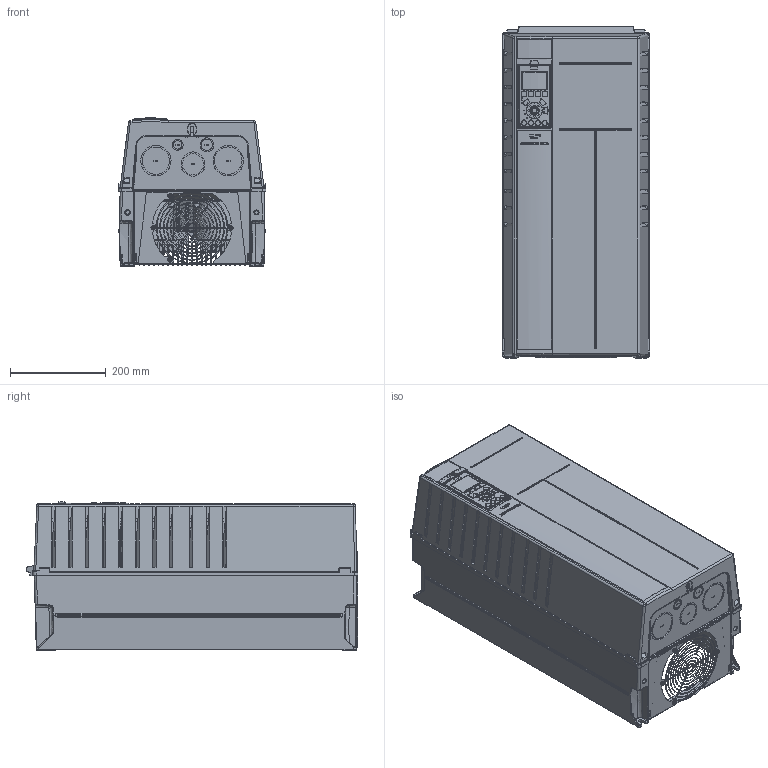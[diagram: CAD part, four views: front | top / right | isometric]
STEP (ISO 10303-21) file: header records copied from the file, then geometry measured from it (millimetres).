
FILE_DESCRIPTION((''),'2;1');
FILE_NAME('DANFOSS-FC300-C1-IP21','2011-10-13T',('cstephenkumar'),('Be-Atch INC. 1993'),'PRO/ENGINEER BY PARAMETRIC TECHNOLOGY CORPORATION, 2009360','PRO/ENGINEER BY PARAMETRIC TECHNOLOGY CORPORATION, 2009360','');
FILE_SCHEMA(('AUTOMOTIVE_DESIGN { 1 0 10303 214 1 1 1 1 }'));
Length unit declared in the file: millimetre
Products named in the file (1): DANFOSS-FC300-C1-IP21
Bounding box: 308.54 x 692.9 x 309.3 mm (x, y, z)
Volume: 42128668.2 mm3; surface area: 3357397.7 mm2
Topology: 1 solids, 22 shells, 5199 faces, 13589 edges, 8390 vertices
Faces by surface type: plane 1842, cylinder 1524, bspline 1171, cone 353, torus 275, sphere 28, extrusion 6
Entity records: 213913 total; most frequent: CARTESIAN_POINT 94873, ORIENTED_EDGE 27042, DIRECTION 21093, EDGE_CURVE 13521, VERTEX_POINT 8390, AXIS2_PLACEMENT_3D 7265, VECTOR 6563, LINE 6557
